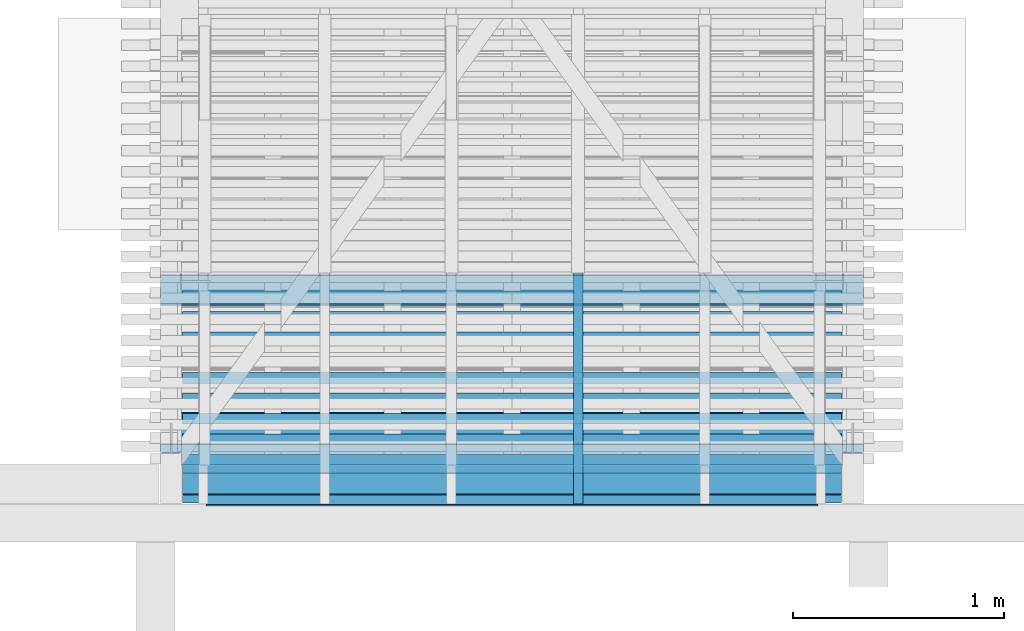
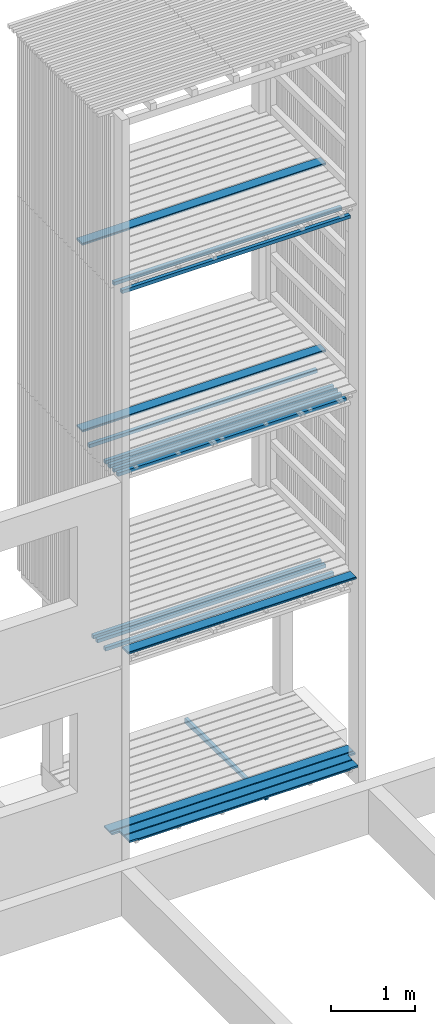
# One storey, part 67 of 182: 17 beams.
"""IFC2X3 building model written with IfcOpenShell, lengths in metres."""

import ifcopenshell
import ifcopenshell.guid

model = None  # the IFC model being written
_history = None  # IfcOwnerHistory: only IFC2X3 demands one
_inside = {}  # id of a spatial element -> (the spatial element, [elements in it])
_under = {}  # id of a project, library or spatial element -> (it, [spatial elements below it])
_declared = {}  # id of a project -> (the project, [libraries it declares])
_typed = {}  # id of a type object -> (the type object, [elements of that type])
_made_of = {}  # id of a material, layer set ... -> (it, [elements and type objects made of it])


def new_model(schema):
    """Start an empty IFC model of exactly this schema.

    Asked for "IFC4X3", IfcOpenShell would pick the latest addendum, in which some entities
    have other attributes; the version numbers below select the first issue.
    IFC2X3 requires an IfcOwnerHistory on every rooted entity: one is made here for all.
    """
    global model, _history
    if schema == "IFC4X3":
        model = ifcopenshell.file(schema_version=(4, 3, 0, 0))
    else:
        model = ifcopenshell.file(schema=schema)
    _inside.clear()
    _under.clear()
    _declared.clear()
    _typed.clear()
    _made_of.clear()
    _history = None
    if model.schema == "IFC2X3":
        org = make("IfcOrganization", Name="unknown")
        user = make(
            "IfcPersonAndOrganization",
            ThePerson=make("IfcPerson", FamilyName="unknown"),
            TheOrganization=org,
        )
        app = make(
            "IfcApplication",
            ApplicationDeveloper=org,
            Version="unknown",
            ApplicationFullName="unknown",
            ApplicationIdentifier="unknown",
        )
        _history = make(
            "IfcOwnerHistory",
            OwningUser=user,
            OwningApplication=app,
            ChangeAction="ADDED",
            CreationDate=0,
        )
    return model


def make(cls, **values):
    """One entity of the class cls with the attributes given. An attribute that is None is left unset."""
    return model.create_entity(
        cls, **{name: value for name, value in values.items() if value is not None}
    )


def rooted(cls, **values):
    """An entity with a GlobalId (a new one), such as an element, a storey or a relation."""
    return make(cls, GlobalId=ifcopenshell.guid.new(), OwnerHistory=_history, **values)


def si_unit(unit_type, name, prefix=None):
    """IfcSIUnit, for example si_unit("LENGTHUNIT", "METRE", prefix="MILLI")."""
    return make("IfcSIUnit", UnitType=unit_type, Prefix=prefix, Name=name)


def assignment(units):
    """IfcUnitAssignment: the units of a project."""
    return None if units is None else make("IfcUnitAssignment", Units=units)


def point(xyz):
    """IfcCartesianPoint."""
    return None if xyz is None else make("IfcCartesianPoint", Coordinates=xyz)


def direction(xyz):
    """IfcDirection."""
    return None if xyz is None else make("IfcDirection", DirectionRatios=xyz)


def frame(location, z_axis=None, x_axis=None):
    """IfcAxis2Placement3D, a coordinate frame: its origin and axes. An axis left out is left unset."""
    return make(
        "IfcAxis2Placement3D",
        Location=point(location),
        Axis=direction(z_axis),
        RefDirection=direction(x_axis),
    )


def origin():
    """The frame at (0, 0, 0) with its axes left unset."""
    return frame((0.0, 0.0, 0.0))


def place(relative_to, where):
    """IfcLocalPlacement: puts the frame where relative to a parent placement (None: the world)."""
    return make(
        "IfcLocalPlacement", PlacementRelTo=relative_to, RelativePlacement=where
    )


def context(
    kind, dimensions, precision=None, world=None, true_north=None, identifier=None
):
    """IfcGeometricRepresentationContext, for example the 3D "Model" context."""
    return make(
        "IfcGeometricRepresentationContext",
        ContextIdentifier=identifier,
        ContextType=kind,
        CoordinateSpaceDimension=dimensions,
        Precision=precision,
        WorldCoordinateSystem=world,
        TrueNorth=true_north,
    )


def project(units=None, contexts=None):
    """IfcProject with its units and contexts."""
    return rooted(
        "IfcProject",
        Name="project",
        RepresentationContexts=contexts,
        UnitsInContext=assignment(units),
    )


def spatial(cls, under=None, at=None, **own):
    """A site, building, storey or space (cls), placed at a placement, below another one or the project."""
    s = rooted(cls, ObjectPlacement=at, **own)
    if under is not None:
        _under.setdefault(under.id(), (under, []))[1].append(s)
    return s


def faces_of(points, faces, orient=None, outer=None):
    """IfcFace entities. A face is a list of loops; a loop is a list of indices into points, from 0.

    orient and outer hold one flag for each loop. By default every Orientation is true, the
    first loop of a face is its IfcFaceOuterBound and the others are IfcFaceBound.
    """
    made = []
    for i, loops in enumerate(faces):
        bounds = []
        for j, loop in enumerate(loops):
            is_outer = j == 0 if outer is None else outer[i][j]
            bounds.append(
                make(
                    "IfcFaceOuterBound" if is_outer else "IfcFaceBound",
                    Bound=make("IfcPolyLoop", Polygon=[points[k] for k in loop]),
                    Orientation=True if orient is None else orient[i][j],
                )
            )
        made.append(make("IfcFace", Bounds=bounds))
    return made


def faceted_brep(points, faces, orient=None, outer=None, voids=None):
    """IfcFacetedBrep: a solid bounded by flat faces; with voids (closed shells), ...WithVoids."""
    shared = [point(p) for p in points]
    hull = make("IfcClosedShell", CfsFaces=faces_of(shared, faces, orient, outer))
    if voids is None:
        return make("IfcFacetedBrep", Outer=hull)
    return make(
        "IfcFacetedBrepWithVoids",
        Outer=hull,
        Voids=[
            make(cls, CfsFaces=faces_of(shared, fs, o, b)) for cls, fs, o, b in voids
        ],
    )


def shape(context_of_items, identifier, shape_type, items):
    """IfcShapeRepresentation: the items that make up one representation, for example the "Body"."""
    return make(
        "IfcShapeRepresentation",
        ContextOfItems=context_of_items,
        RepresentationIdentifier=identifier,
        RepresentationType=shape_type,
        Items=items,
    )


def made_of(thing, what):
    """Note that an element or type object is made of a material, layer set ...; save() writes the relation."""
    if what is not None:
        _made_of.setdefault(what.id(), (what, []))[1].append(thing)
    return thing


def element(
    cls,
    number,
    at=None,
    inside=None,
    cuts=None,
    type_object=None,
    material=None,
    context=None,
    identifier="Body",
    shape_type=None,
    held_by="IfcProductDefinitionShape",
    body=None,
    shapes=None,
    **own,
):
    """One element of the class cls, such as IfcWall. Its Tag is "e" and its number.

    at: its placement. inside: the storey or other place that contains it. cuts: it is an
    opening in that element (IfcRelVoidsElement). A single representation is given by context,
    identifier, shape_type and body (its items); several are given by shapes. held_by: the class
    of the entity that holds the representations. save() writes the other relations.
    """
    e = rooted(cls, Tag="e%d" % number, ObjectPlacement=at, **own)
    if body is not None:
        shapes = [shape(context, identifier, shape_type, body)]
    if shapes is not None:
        e.Representation = make(held_by, Representations=shapes)
    if inside is not None:
        _inside.setdefault(inside.id(), (inside, []))[1].append(e)
    if cuts is not None:
        rooted(
            "IfcRelVoidsElement", RelatingBuildingElement=cuts, RelatedOpeningElement=e
        )
    if type_object is not None:
        _typed.setdefault(type_object.id(), (type_object, []))[1].append(e)
    return made_of(e, material)


def aggregate(whole, parts):
    """IfcRelAggregates: a whole, such as a stair, and the parts it consists of."""
    return rooted("IfcRelAggregates", RelatingObject=whole, RelatedObjects=parts)


def save(model, path):
    """Write the relations noted so far, then the file.

    IfcRelAggregates (storeys below a building ...), IfcRelContainedInSpatialStructure (elements
    in a storey), IfcRelDefinesByType, IfcRelAssociatesMaterial and IfcRelDeclares: one each for
    every whole, place, type object, material and project.
    """
    for whole, parts in _under.values():
        aggregate(whole, parts)
    for where, things in _inside.values():
        rooted(
            "IfcRelContainedInSpatialStructure",
            RelatedElements=things,
            RelatingStructure=where,
        )
    for kind, things in _typed.values():
        rooted("IfcRelDefinesByType", RelatedObjects=things, RelatingType=kind)
    for what, things in _made_of.values():
        rooted("IfcRelAssociatesMaterial", RelatedObjects=things, RelatingMaterial=what)
    for by, libraries in _declared.values():
        rooted("IfcRelDeclares", RelatingContext=by, RelatedDefinitions=libraries)
    model.write(path)


model = new_model("IFC2X3")

# Units and contexts
model_context = context("Model", 3, precision=1e-06, world=origin())
ifc_project = project(units=[si_unit("LENGTHUNIT", "METRE"), si_unit("PLANEANGLEUNIT", "RADIAN")], contexts=[model_context])

# Site, building, storey
site = spatial("IfcSite", under=ifc_project, CompositionType="ELEMENT")
building = spatial("IfcBuilding", under=site, CompositionType="ELEMENT")
storey = spatial("IfcBuildingStorey", under=building, Name="vs", CompositionType="ELEMENT", Elevation=-0.85)

# Beams
placement = place(None, origin())
beam_1_placement = place(placement, frame((25.022999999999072, 10.470077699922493, -0.015599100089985), z_axis=(0.0, 0.0, 1.0), x_axis=(0.0, 1.0, 0.0)))
element("IfcBeam", 1, at=beam_1_placement, inside=storey, Name="Calage", context=model_context, shape_type="Brep", body=[
    faceted_brep([(0.0, 0.02249999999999, 0.002600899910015), (1.91000000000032, 0.02249999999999, -0.035599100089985), (1.91000000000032, -0.022499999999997, -0.035599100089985), (0.0, -0.022499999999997, 0.002600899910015), (0.0, -0.022499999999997, 0.035599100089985), (0.0, 0.02249999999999, 0.035599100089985), (0.0, 0.02249999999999, 0.002600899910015), (0.0, -0.022499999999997, 0.002600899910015), (0.0, 0.02249999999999, 0.035599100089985), (0.0, -0.022499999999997, 0.035599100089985), (1.91000000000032, -0.022499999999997, 0.035599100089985), (1.91000000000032, 0.02249999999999, 0.035599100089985), (0.0, 0.02249999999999, 0.002600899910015), (0.0, 0.02249999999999, 0.035599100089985), (1.91000000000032, 0.02249999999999, 0.035599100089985), (1.91000000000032, 0.02249999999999, -0.035599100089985), (1.91000000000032, 0.02249999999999, -0.035599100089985), (1.91000000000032, 0.02249999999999, 0.035599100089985), (1.91000000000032, -0.022499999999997, 0.035599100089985), (1.91000000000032, -0.022499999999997, -0.035599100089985), (1.91000000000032, -0.022499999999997, -0.035599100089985), (1.91000000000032, -0.022499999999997, 0.035599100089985), (0.0, -0.022499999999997, 0.035599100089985), (0.0, -0.022499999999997, 0.002600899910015)], [[[0, 1, 2, 3]], [[4, 5, 6, 7]], [[8, 9, 10, 11]], [[12, 13, 14, 15]], [[16, 17, 18, 19]], [[20, 21, 22, 23]]]),
])
beam_2_placement = place(placement, frame((26.269999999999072, 10.776952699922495, 5.167999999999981), z_axis=(0.0, 0.0, 1.0), x_axis=(-1.0, 0.0, 0.0)))
element("IfcBeam", 2, at=beam_2_placement, inside=storey, Name="Bardage", context=model_context, shape_type="Brep", body=[
    faceted_brep([(3.120000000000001, 0.025000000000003, -0.025), (3.120000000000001, -0.024999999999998, -0.025), (-3e-15, -0.024999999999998, -0.025), (-3e-15, 0.025000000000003, -0.025), (-3e-15, -0.024999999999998, -0.025), (3.120000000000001, -0.024999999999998, -0.025), (3.120000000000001, -0.024999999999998, 0.025000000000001), (-3e-15, -0.024999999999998, 0.025000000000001), (3.120000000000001, -0.024999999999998, -0.025), (3.120000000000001, 0.025000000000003, -0.025), (3.120000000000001, 0.025000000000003, 0.025000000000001), (3.120000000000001, -0.024999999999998, 0.025000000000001), (3.120000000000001, 0.025000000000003, 0.025000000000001), (3.120000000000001, 0.025000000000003, -0.025), (-3e-15, 0.025000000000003, -0.025), (-3e-15, 0.025000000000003, 0.025000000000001), (-3e-15, -0.024999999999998, 0.025000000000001), (3.120000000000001, -0.024999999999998, 0.025000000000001), (3.120000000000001, 0.025000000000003, 0.025000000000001), (-3e-15, 0.025000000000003, 0.025000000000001), (-3e-15, -0.024999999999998, -0.025), (-3e-15, -0.024999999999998, 0.025000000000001), (-3e-15, 0.025000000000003, 0.025000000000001), (-3e-15, 0.025000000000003, -0.025)], [[[0, 1, 2, 3]], [[4, 5, 6, 7]], [[8, 9, 10, 11]], [[12, 13, 14, 15]], [[16, 17, 18, 19]], [[20, 21, 22, 23]]]),
])
beam_3_placement = place(placement, frame((26.269999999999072, 11.067577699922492, 2.467999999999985), z_axis=(0.0, 0.0, 1.0), x_axis=(-1.0, -1e-15, 0.0)))
element("IfcBeam", 3, at=beam_3_placement, inside=storey, Name="Bardage", context=model_context, shape_type="Brep", body=[
    faceted_brep([(3.120000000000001, 0.025000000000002, -0.025), (3.120000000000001, -0.025000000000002, -0.025), (-3e-15, -0.024999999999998, -0.025), (-3e-15, 0.025000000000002, -0.025), (-3e-15, -0.024999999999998, -0.025), (3.120000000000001, -0.025000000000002, -0.025), (3.120000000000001, -0.025000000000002, 0.025), (-3e-15, -0.024999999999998, 0.025), (3.120000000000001, -0.025000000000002, -0.025), (3.120000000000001, 0.025000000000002, -0.025), (3.120000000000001, 0.025000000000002, 0.025), (3.120000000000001, -0.025000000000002, 0.025), (3.120000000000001, 0.025000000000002, 0.025), (3.120000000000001, 0.025000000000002, -0.025), (-3e-15, 0.025000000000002, -0.025), (-3e-15, 0.025000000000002, 0.025), (-3e-15, -0.024999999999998, 0.025), (3.120000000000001, -0.025000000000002, 0.025), (3.120000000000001, 0.025000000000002, 0.025), (-3e-15, 0.025000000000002, 0.025), (-3e-15, -0.024999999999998, -0.025), (-3e-15, -0.024999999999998, 0.025), (-3e-15, 0.025000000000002, 0.025), (-3e-15, 0.025000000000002, -0.025)], [[[0, 1, 2, 3]], [[4, 5, 6, 7]], [[8, 9, 10, 11]], [[12, 13, 14, 15]], [[16, 17, 18, 19]], [[20, 21, 22, 23]]]),
])
beam_4_placement = place(placement, frame((26.269999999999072, 11.455077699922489, 5.167999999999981), z_axis=(0.0, 0.0, 1.0), x_axis=(-1.0, -1e-15, 0.0)))
element("IfcBeam", 4, at=beam_4_placement, inside=storey, Name="Bardage", context=model_context, shape_type="Brep", body=[
    faceted_brep([(3.120000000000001, 0.025000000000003, -0.025), (3.120000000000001, -0.025000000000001, -0.025), (-3e-15, -0.024999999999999, -0.025), (-3e-15, 0.025000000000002, -0.025), (-3e-15, -0.024999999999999, -0.025), (3.120000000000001, -0.025000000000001, -0.025), (3.120000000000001, -0.025000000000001, 0.025000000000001), (-3e-15, -0.024999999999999, 0.025000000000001), (3.120000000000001, -0.025000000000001, -0.025), (3.120000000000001, 0.025000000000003, -0.025), (3.120000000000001, 0.025000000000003, 0.025000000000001), (3.120000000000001, -0.025000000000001, 0.025000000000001), (3.120000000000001, 0.025000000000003, 0.025000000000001), (3.120000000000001, 0.025000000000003, -0.025), (-3e-15, 0.025000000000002, -0.025), (-3e-15, 0.025000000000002, 0.025000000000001), (-3e-15, -0.024999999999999, 0.025000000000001), (3.120000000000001, -0.025000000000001, 0.025000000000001), (3.120000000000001, 0.025000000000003, 0.025000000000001), (-3e-15, 0.025000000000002, 0.025000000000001), (-3e-15, -0.024999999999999, -0.025), (-3e-15, -0.024999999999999, 0.025000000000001), (-3e-15, 0.025000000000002, 0.025000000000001), (-3e-15, 0.025000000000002, -0.025)], [[[0, 1, 2, 3]], [[4, 5, 6, 7]], [[8, 9, 10, 11]], [[12, 13, 14, 15]], [[16, 17, 18, 19]], [[20, 21, 22, 23]]]),
])
beam_5_placement = place(placement, frame((26.374999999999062, 10.834577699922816, 0.033500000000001), z_axis=(0.0, 0.0, 1.0), x_axis=(-1.0, 0.0, 0.0)))
element("IfcBeam", 5, at=beam_5_placement, inside=storey, Name="Caillebotis", context=model_context, shape_type="Brep", body=[
    faceted_brep([(3.329999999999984, -0.067500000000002, 0.0135), (3.329999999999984, -0.072499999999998, 0.008500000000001), (3.329999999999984, -0.072499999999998, -0.013500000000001), (3.329999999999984, 0.072499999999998, -0.013500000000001), (3.329999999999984, 0.072499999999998, 0.0085), (3.329999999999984, 0.067499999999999, 0.0135), (0.0, 0.067499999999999, 0.0135), (0.0, 0.072499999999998, 0.0085), (0.0, 0.072499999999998, -0.013500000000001), (0.0, -0.072500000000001, -0.013500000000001), (0.0, -0.072500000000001, 0.008500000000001), (0.0, -0.067500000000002, 0.0135), (3.329999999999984, -0.072499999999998, -0.013500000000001), (3.329999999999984, -0.072499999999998, 0.008500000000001), (0.0, -0.072500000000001, 0.008500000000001), (0.0, -0.072500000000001, -0.013500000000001), (3.329999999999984, 0.072499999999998, -0.013500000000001), (3.329999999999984, -0.072499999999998, -0.013500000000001), (0.0, -0.072500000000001, -0.013500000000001), (0.0, 0.072499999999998, -0.013500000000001), (3.329999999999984, 0.072499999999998, 0.0085), (3.329999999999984, 0.072499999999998, -0.013500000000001), (0.0, 0.072499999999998, -0.013500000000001), (0.0, 0.072499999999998, 0.0085), (3.329999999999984, 0.067499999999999, 0.0135), (3.329999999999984, 0.072499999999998, 0.0085), (0.0, 0.072499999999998, 0.0085), (0.0, 0.067499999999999, 0.0135), (3.329999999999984, -0.067500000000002, 0.0135), (3.329999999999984, 0.067499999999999, 0.0135), (0.0, 0.067499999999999, 0.0135), (0.0, -0.067500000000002, 0.0135), (0.0, -0.072500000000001, 0.008500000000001), (3.329999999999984, -0.072499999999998, 0.008500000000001), (3.329999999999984, -0.067500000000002, 0.0135), (0.0, -0.067500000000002, 0.0135)], [[[0, 1, 2, 3, 4, 5]], [[6, 7, 8, 9, 10, 11]], [[12, 13, 14, 15]], [[16, 17, 18, 19]], [[20, 21, 22, 23]], [[24, 25, 26, 27]], [[28, 29, 30, 31]], [[32, 33, 34, 35]]]),
])
beam_6_placement = place(placement, frame((26.269999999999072, 10.873827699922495, 7.867999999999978), z_axis=(0.0, 0.0, 1.0), x_axis=(-1.0, 0.0, 0.0)))
element("IfcBeam", 6, at=beam_6_placement, inside=storey, Name="Bardage", context=model_context, shape_type="Brep", body=[
    faceted_brep([(3.120000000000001, 0.025000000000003, -0.025000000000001), (3.120000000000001, -0.024999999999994, -0.025000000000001), (-3e-15, -0.024999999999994, -0.025000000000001), (-3e-15, 0.025000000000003, -0.025000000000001), (-3e-15, -0.024999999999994, -0.025000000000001), (3.120000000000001, -0.024999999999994, -0.025000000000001), (3.120000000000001, -0.024999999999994, 0.024999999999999), (-3e-15, -0.024999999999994, 0.024999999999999), (3.120000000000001, -0.024999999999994, -0.025000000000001), (3.120000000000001, 0.025000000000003, -0.025000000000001), (3.120000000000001, 0.025000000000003, 0.024999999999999), (3.120000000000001, -0.024999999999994, 0.024999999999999), (3.120000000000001, 0.025000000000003, 0.024999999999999), (3.120000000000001, 0.025000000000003, -0.025000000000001), (-3e-15, 0.025000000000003, -0.025000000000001), (-3e-15, 0.025000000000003, 0.024999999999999), (-3e-15, -0.024999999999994, 0.024999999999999), (3.120000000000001, -0.024999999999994, 0.024999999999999), (3.120000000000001, 0.025000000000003, 0.024999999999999), (-3e-15, 0.025000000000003, 0.024999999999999), (-3e-15, -0.024999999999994, -0.025000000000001), (-3e-15, -0.024999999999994, 0.024999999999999), (-3e-15, 0.025000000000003, 0.024999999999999), (-3e-15, 0.025000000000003, -0.025000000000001)], [[[0, 1, 2, 3]], [[4, 5, 6, 7]], [[8, 9, 10, 11]], [[12, 13, 14, 15]], [[16, 17, 18, 19]], [[20, 21, 22, 23]]]),
])
beam_7_placement = place(placement, frame((26.374999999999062, 10.684577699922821, 0.033500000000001), z_axis=(0.0, 0.0, 1.0), x_axis=(-1.0, 0.0, 0.0)))
element("IfcBeam", 7, at=beam_7_placement, inside=storey, Name="Caillebotis", context=model_context, shape_type="Brep", body=[
    faceted_brep([(0.0, -0.072499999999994, -0.0135), (0.0, -0.072499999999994, 0.008500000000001), (0.0, -0.067499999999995, 0.0135), (0.0, -0.030499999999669, 0.0135), (0.0, -0.030499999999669, -0.0135), (3.329999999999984, -0.067499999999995, 0.0135), (3.329999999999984, -0.030499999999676, 0.0135), (3.224999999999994, -0.030499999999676, 0.0135), (3.224999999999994, 0.067500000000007, 0.0135), (0.104999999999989, 0.067500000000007, 0.0135), (0.104999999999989, -0.030499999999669, 0.0135), (0.0, -0.030499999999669, 0.0135), (0.0, -0.067499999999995, 0.0135), (0.104999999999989, -0.030499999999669, 0.0135), (0.104999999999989, 0.067500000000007, 0.0135), (0.104999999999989, 0.072500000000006, 0.0085), (0.104999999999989, 0.072500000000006, -0.0135), (0.104999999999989, -0.030499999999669, -0.0135), (0.104999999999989, 0.072500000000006, 0.0085), (0.104999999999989, 0.067500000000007, 0.0135), (3.224999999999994, 0.067500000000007, 0.0135), (3.224999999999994, 0.072500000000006, 0.0085), (0.104999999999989, 0.072500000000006, -0.0135), (0.104999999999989, 0.072500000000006, 0.0085), (3.224999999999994, 0.072500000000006, 0.0085), (3.224999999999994, 0.072500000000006, -0.013500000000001), (3.224999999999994, 0.072500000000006, -0.013500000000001), (3.224999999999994, 0.072500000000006, 0.0085), (3.224999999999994, 0.067500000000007, 0.0135), (3.224999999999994, -0.030499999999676, 0.0135), (3.224999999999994, -0.030499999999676, -0.013500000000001), (3.224999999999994, -0.030499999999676, -0.013500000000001), (3.224999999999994, -0.030499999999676, 0.0135), (3.329999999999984, -0.030499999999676, 0.0135), (3.329999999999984, -0.030499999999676, -0.013500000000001), (3.329999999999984, -0.072499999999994, 0.008500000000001), (3.329999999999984, -0.072499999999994, -0.013500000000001), (3.329999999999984, -0.030499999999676, -0.013500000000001), (3.329999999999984, -0.030499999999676, 0.0135), (3.329999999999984, -0.067499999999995, 0.0135), (3.329999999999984, -0.072499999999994, 0.008500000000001), (3.329999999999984, -0.067499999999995, 0.0135), (0.0, -0.067499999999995, 0.0135), (0.0, -0.072499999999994, 0.008500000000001), (3.329999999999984, -0.072499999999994, -0.013500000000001), (3.329999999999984, -0.072499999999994, 0.008500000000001), (0.0, -0.072499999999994, 0.008500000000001), (0.0, -0.072499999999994, -0.0135), (0.104999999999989, -0.030499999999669, -0.0135), (0.104999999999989, 0.072500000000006, -0.0135), (3.224999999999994, 0.072500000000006, -0.013500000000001), (3.224999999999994, -0.030499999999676, -0.013500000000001), (3.329999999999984, -0.030499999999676, -0.013500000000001), (3.329999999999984, -0.072499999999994, -0.013500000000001), (0.0, -0.072499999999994, -0.0135), (0.0, -0.030499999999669, -0.0135), (0.0, -0.030499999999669, 0.0135), (0.104999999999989, -0.030499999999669, 0.0135), (0.104999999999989, -0.030499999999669, -0.0135), (0.0, -0.030499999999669, -0.0135)], [[[0, 1, 2, 3, 4]], [[5, 6, 7, 8, 9, 10, 11, 12]], [[13, 14, 15, 16, 17]], [[18, 19, 20, 21]], [[22, 23, 24, 25]], [[26, 27, 28, 29, 30]], [[31, 32, 33, 34]], [[35, 36, 37, 38, 39]], [[40, 41, 42, 43]], [[44, 45, 46, 47]], [[48, 49, 50, 51, 52, 53, 54, 55]], [[56, 57, 58, 59]]]),
])
beam_8_placement = place(placement, frame((26.269999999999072, 10.970702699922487, 5.167999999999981), z_axis=(0.0, 0.0, 1.0), x_axis=(-1.0, 0.0, 0.0)))
element("IfcBeam", 8, at=beam_8_placement, inside=storey, Name="Bardage", context=model_context, shape_type="Brep", body=[
    faceted_brep([(3.120000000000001, 0.024999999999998, -0.025), (3.120000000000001, -0.025000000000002, -0.025), (-3e-15, -0.025000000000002, -0.025), (-3e-15, 0.024999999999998, -0.025), (-3e-15, -0.025000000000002, -0.025), (3.120000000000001, -0.025000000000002, -0.025), (3.120000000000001, -0.025000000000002, 0.025000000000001), (-3e-15, -0.025000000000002, 0.025000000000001), (3.120000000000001, -0.025000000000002, -0.025), (3.120000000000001, 0.024999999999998, -0.025), (3.120000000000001, 0.024999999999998, 0.025000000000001), (3.120000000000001, -0.025000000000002, 0.025000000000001), (3.120000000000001, 0.024999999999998, 0.025000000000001), (3.120000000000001, 0.024999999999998, -0.025), (-3e-15, 0.024999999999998, -0.025), (-3e-15, 0.024999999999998, 0.025000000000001), (-3e-15, -0.025000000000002, 0.025000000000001), (3.120000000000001, -0.025000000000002, 0.025000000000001), (3.120000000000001, 0.024999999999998, 0.025000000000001), (-3e-15, 0.024999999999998, 0.025000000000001), (-3e-15, -0.025000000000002, -0.025), (-3e-15, -0.025000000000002, 0.025000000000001), (-3e-15, 0.024999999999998, 0.025000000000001), (-3e-15, 0.024999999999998, -0.025)], [[[0, 1, 2, 3]], [[4, 5, 6, 7]], [[8, 9, 10, 11]], [[12, 13, 14, 15]], [[16, 17, 18, 19]], [[20, 21, 22, 23]]]),
])
beam_9_placement = place(placement, frame((26.374999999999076, 11.484577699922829, 8.13349999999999), z_axis=(0.0, 0.0, 1.0), x_axis=(-1.0, -8e-15, 0.0)))
element("IfcBeam", 9, at=beam_9_placement, inside=storey, Name="Caillebotis", context=model_context, shape_type="Brep", body=[
    faceted_brep([(3.329999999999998, -0.072500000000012, -0.013500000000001), (3.329999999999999, 0.072499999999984, -0.013500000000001), (3.329999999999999, 0.072499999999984, 0.008499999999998), (3.329999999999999, 0.067499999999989, 0.013499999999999), (3.329999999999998, -0.067500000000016, 0.013499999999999), (3.329999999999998, -0.072500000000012, 0.0085), (-1e-15, -0.072499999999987, 0.0085), (-1e-15, -0.067499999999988, 0.013499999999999), (1e-15, 0.067500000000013, 0.013499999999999), (1e-15, 0.072500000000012, 0.008499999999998), (1e-15, 0.072500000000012, -0.013500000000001), (-1e-15, -0.072499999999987, -0.013500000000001), (3.329999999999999, 0.072499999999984, 0.008499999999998), (3.329999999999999, 0.072499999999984, -0.013500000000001), (1e-15, 0.072500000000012, -0.013500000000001), (1e-15, 0.072500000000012, 0.008499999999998), (3.329999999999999, 0.067499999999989, 0.013499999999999), (3.329999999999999, 0.072499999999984, 0.008499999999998), (1e-15, 0.072500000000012, 0.008499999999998), (1e-15, 0.067500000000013, 0.013499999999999), (3.329999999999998, -0.067500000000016, 0.013499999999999), (3.329999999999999, 0.067499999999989, 0.013499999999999), (1e-15, 0.067500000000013, 0.013499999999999), (-1e-15, -0.067499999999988, 0.013499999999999), (3.329999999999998, -0.072500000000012, 0.0085), (3.329999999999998, -0.067500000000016, 0.013499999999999), (-1e-15, -0.067499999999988, 0.013499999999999), (-1e-15, -0.072499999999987, 0.0085), (3.329999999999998, -0.072500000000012, -0.013500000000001), (3.329999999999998, -0.072500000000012, 0.0085), (-1e-15, -0.072499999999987, 0.0085), (-1e-15, -0.072499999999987, -0.013500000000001), (1e-15, 0.072500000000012, -0.013500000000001), (3.329999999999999, 0.072499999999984, -0.013500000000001), (3.329999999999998, -0.072500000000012, -0.013500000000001), (-1e-15, -0.072499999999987, -0.013500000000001)], [[[0, 1, 2, 3, 4, 5]], [[6, 7, 8, 9, 10, 11]], [[12, 13, 14, 15]], [[16, 17, 18, 19]], [[20, 21, 22, 23]], [[24, 25, 26, 27]], [[28, 29, 30, 31]], [[32, 33, 34, 35]]]),
])
beam_10_placement = place(placement, frame((26.269999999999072, 10.873827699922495, 5.167999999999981), z_axis=(0.0, 0.0, 1.0), x_axis=(-1.0, 0.0, 0.0)))
element("IfcBeam", 10, at=beam_10_placement, inside=storey, Name="Bardage", context=model_context, shape_type="Brep", body=[
    faceted_brep([(3.120000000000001, 0.025000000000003, -0.025), (3.120000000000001, -0.024999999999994, -0.025), (-3e-15, -0.024999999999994, -0.025), (-3e-15, 0.025000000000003, -0.025), (-3e-15, -0.024999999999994, -0.025), (3.120000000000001, -0.024999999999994, -0.025), (3.120000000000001, -0.024999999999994, 0.025000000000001), (-3e-15, -0.024999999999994, 0.025000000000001), (3.120000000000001, -0.024999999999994, -0.025), (3.120000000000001, 0.025000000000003, -0.025), (3.120000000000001, 0.025000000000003, 0.025000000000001), (3.120000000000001, -0.024999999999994, 0.025000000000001), (3.120000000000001, 0.025000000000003, 0.025000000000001), (3.120000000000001, 0.025000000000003, -0.025), (-3e-15, 0.025000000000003, -0.025), (-3e-15, 0.025000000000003, 0.025000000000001), (-3e-15, -0.024999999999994, 0.025000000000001), (3.120000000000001, -0.024999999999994, 0.025000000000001), (3.120000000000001, 0.025000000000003, 0.025000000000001), (-3e-15, 0.025000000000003, 0.025000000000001), (-3e-15, -0.024999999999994, -0.025), (-3e-15, -0.024999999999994, 0.025000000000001), (-3e-15, 0.025000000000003, 0.025000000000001), (-3e-15, 0.025000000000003, -0.025)], [[[0, 1, 2, 3]], [[4, 5, 6, 7]], [[8, 9, 10, 11]], [[12, 13, 14, 15]], [[16, 17, 18, 19]], [[20, 21, 22, 23]]]),
])
beam_11_placement = place(placement, frame((26.374999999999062, 11.484577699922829, 5.433499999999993), z_axis=(0.0, 0.0, 1.0), x_axis=(-1.0, -8e-15, 0.0)))
element("IfcBeam", 11, at=beam_11_placement, inside=storey, Name="Caillebotis", context=model_context, shape_type="Brep", body=[
    faceted_brep([(3.329999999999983, -0.072500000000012, -0.0135), (3.329999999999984, 0.072499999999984, -0.0135), (3.329999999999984, 0.072499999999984, 0.0085), (3.329999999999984, 0.067499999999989, 0.0135), (3.329999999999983, -0.067500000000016, 0.0135), (3.329999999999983, -0.072500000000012, 0.008500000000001), (-1.5e-14, -0.072499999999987, 0.008500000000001), (-1.5e-14, -0.067499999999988, 0.0135), (-1.4e-14, 0.067500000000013, 0.0135), (-1.4e-14, 0.072500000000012, 0.0085), (-1.4e-14, 0.072500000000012, -0.0135), (-1.5e-14, -0.072499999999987, -0.0135), (3.329999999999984, 0.072499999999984, 0.0085), (3.329999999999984, 0.072499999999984, -0.0135), (-1.4e-14, 0.072500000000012, -0.0135), (-1.4e-14, 0.072500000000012, 0.0085), (3.329999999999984, 0.067499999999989, 0.0135), (3.329999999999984, 0.072499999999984, 0.0085), (-1.4e-14, 0.072500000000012, 0.0085), (-1.4e-14, 0.067500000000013, 0.0135), (3.329999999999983, -0.067500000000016, 0.0135), (3.329999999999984, 0.067499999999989, 0.0135), (-1.4e-14, 0.067500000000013, 0.0135), (-1.5e-14, -0.067499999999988, 0.0135), (3.329999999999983, -0.072500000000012, 0.008500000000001), (3.329999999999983, -0.067500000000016, 0.0135), (-1.5e-14, -0.067499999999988, 0.0135), (-1.5e-14, -0.072499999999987, 0.008500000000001), (3.329999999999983, -0.072500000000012, -0.0135), (3.329999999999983, -0.072500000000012, 0.008500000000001), (-1.5e-14, -0.072499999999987, 0.008500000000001), (-1.5e-14, -0.072499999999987, -0.0135), (-1.4e-14, 0.072500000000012, -0.0135), (3.329999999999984, 0.072499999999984, -0.0135), (3.329999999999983, -0.072500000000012, -0.0135), (-1.5e-14, -0.072499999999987, -0.0135)], [[[0, 1, 2, 3, 4, 5]], [[6, 7, 8, 9, 10, 11]], [[12, 13, 14, 15]], [[16, 17, 18, 19]], [[20, 21, 22, 23]], [[24, 25, 26, 27]], [[28, 29, 30, 31]], [[32, 33, 34, 35]]]),
])
beam_12_placement = place(placement, frame((26.269999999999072, 11.358202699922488, 2.467999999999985), z_axis=(0.0, 0.0, 1.0), x_axis=(-1.0, -1e-15, 0.0)))
element("IfcBeam", 12, at=beam_12_placement, inside=storey, Name="Bardage", context=model_context, shape_type="Brep", body=[
    faceted_brep([(3.120000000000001, 0.024999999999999, -0.025), (3.120000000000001, -0.025000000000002, -0.025), (-3e-15, -0.025000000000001, -0.025), (-3e-15, 0.025000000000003, -0.025), (-3e-15, -0.025000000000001, -0.025), (3.120000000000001, -0.025000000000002, -0.025), (3.120000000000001, -0.025000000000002, 0.025), (-3e-15, -0.025000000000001, 0.025), (3.120000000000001, -0.025000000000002, -0.025), (3.120000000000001, 0.024999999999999, -0.025), (3.120000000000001, 0.024999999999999, 0.025), (3.120000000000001, -0.025000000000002, 0.025), (3.120000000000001, 0.024999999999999, 0.025), (3.120000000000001, 0.024999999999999, -0.025), (-3e-15, 0.025000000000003, -0.025), (-3e-15, 0.025000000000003, 0.025), (-3e-15, -0.025000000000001, 0.025), (3.120000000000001, -0.025000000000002, 0.025), (3.120000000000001, 0.024999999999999, 0.025), (-3e-15, 0.025000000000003, 0.025), (-3e-15, -0.025000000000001, -0.025), (-3e-15, -0.025000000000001, 0.025), (-3e-15, 0.025000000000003, 0.025), (-3e-15, 0.025000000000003, -0.025)], [[[0, 1, 2, 3]], [[4, 5, 6, 7]], [[8, 9, 10, 11]], [[12, 13, 14, 15]], [[16, 17, 18, 19]], [[20, 21, 22, 23]]]),
])
beam_13_placement = place(placement, frame((26.269999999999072, 11.261327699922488, 2.467999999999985), z_axis=(0.0, 0.0, 1.0), x_axis=(-1.0, 0.0, 0.0)))
element("IfcBeam", 13, at=beam_13_placement, inside=storey, Name="Bardage", context=model_context, shape_type="Brep", body=[
    faceted_brep([(3.120000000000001, 0.024999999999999, -0.025), (3.120000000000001, -0.024999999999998, -0.025), (-3e-15, -0.025000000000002, -0.025), (-3e-15, 0.024999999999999, -0.025), (-3e-15, -0.025000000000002, -0.025), (3.120000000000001, -0.024999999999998, -0.025), (3.120000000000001, -0.024999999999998, 0.025), (-3e-15, -0.025000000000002, 0.025), (3.120000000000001, -0.024999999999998, -0.025), (3.120000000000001, 0.024999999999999, -0.025), (3.120000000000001, 0.024999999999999, 0.025), (3.120000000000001, -0.024999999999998, 0.025), (3.120000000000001, 0.024999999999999, 0.025), (3.120000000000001, 0.024999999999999, -0.025), (-3e-15, 0.024999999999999, -0.025), (-3e-15, 0.024999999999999, 0.025), (-3e-15, -0.025000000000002, 0.025), (3.120000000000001, -0.024999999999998, 0.025), (3.120000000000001, 0.024999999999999, 0.025), (-3e-15, 0.024999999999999, 0.025), (-3e-15, -0.025000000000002, -0.025), (-3e-15, -0.025000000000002, 0.025), (-3e-15, 0.024999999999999, 0.025), (-3e-15, 0.024999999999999, -0.025)], [[[0, 1, 2, 3]], [[4, 5, 6, 7]], [[8, 9, 10, 11]], [[12, 13, 14, 15]], [[16, 17, 18, 19]], [[20, 21, 22, 23]]]),
])
beam_14_placement = place(placement, frame((26.269999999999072, 10.534577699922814, 0.033500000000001), z_axis=(0.0, 0.0, 1.0), x_axis=(-1.0, 0.0, 0.0)))
element("IfcBeam", 14, at=beam_14_placement, inside=storey, Name="Caillebotis", context=model_context, shape_type="Brep", body=[
    faceted_brep([(0.109999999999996, 0.072499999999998, 0.0085), (3.010000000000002, 0.072499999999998, 0.0085), (3.010000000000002, 0.072499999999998, -0.013500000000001), (0.109999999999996, 0.072499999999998, -0.0135), (0.109999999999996, 0.067499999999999, 0.0135), (3.010000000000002, 0.067499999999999, 0.0135), (3.010000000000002, 0.072499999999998, 0.0085), (0.109999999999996, 0.072499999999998, 0.0085), (0.109999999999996, 0.05950000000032, 0.0135), (0.109999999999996, 0.067499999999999, 0.0135), (0.109999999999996, 0.072499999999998, 0.0085), (0.109999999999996, 0.072499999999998, -0.0135), (0.109999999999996, 0.05950000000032, -0.0135), (0.109999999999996, 0.05950000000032, 0.0135), (0.109999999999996, 0.05950000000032, -0.0135), (-3e-15, 0.05950000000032, -0.0135), (-3e-15, 0.05950000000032, 0.0135), (-3e-15, -0.072500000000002, 0.008500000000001), (3.120000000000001, -0.072500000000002, 0.008500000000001), (3.120000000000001, -0.067500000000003, 0.0135), (-3e-15, -0.067500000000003, 0.0135), (-3e-15, -0.072500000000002, -0.0135), (-3e-15, -0.072500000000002, 0.008500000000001), (-3e-15, -0.067500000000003, 0.0135), (-3e-15, 0.05950000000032, 0.0135), (-3e-15, 0.05950000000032, -0.0135), (3.010000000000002, 0.067499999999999, 0.0135), (0.109999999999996, 0.067499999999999, 0.0135), (0.109999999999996, 0.05950000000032, 0.0135), (-3e-15, 0.05950000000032, 0.0135), (-3e-15, -0.067500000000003, 0.0135), (3.120000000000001, -0.067500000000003, 0.0135), (3.120000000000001, 0.05950000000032, 0.0135), (3.010000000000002, 0.05950000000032, 0.0135), (3.010000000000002, 0.05950000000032, -0.013500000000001), (3.010000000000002, 0.072499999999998, -0.013500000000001), (3.010000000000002, 0.072499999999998, 0.0085), (3.010000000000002, 0.067499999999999, 0.0135), (3.010000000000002, 0.05950000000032, 0.0135), (3.010000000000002, 0.05950000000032, -0.013500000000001), (3.010000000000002, 0.05950000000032, 0.0135), (3.120000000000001, 0.05950000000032, 0.0135), (3.120000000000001, 0.05950000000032, -0.013500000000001), (-3e-15, -0.072500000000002, -0.0135), (-3e-15, 0.05950000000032, -0.0135), (0.109999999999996, 0.05950000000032, -0.0135), (0.109999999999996, 0.072499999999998, -0.0135), (3.010000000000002, 0.072499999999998, -0.013500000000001), (3.010000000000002, 0.05950000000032, -0.013500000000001), (3.120000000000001, 0.05950000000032, -0.013500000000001), (3.120000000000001, -0.072500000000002, -0.013500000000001), (-3e-15, -0.072500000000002, 0.008500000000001), (-3e-15, -0.072500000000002, -0.0135), (3.120000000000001, -0.072500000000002, -0.013500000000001), (3.120000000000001, -0.072500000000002, 0.008500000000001), (3.120000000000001, 0.05950000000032, 0.0135), (3.120000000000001, -0.067500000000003, 0.0135), (3.120000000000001, -0.072500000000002, 0.008500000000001), (3.120000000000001, -0.072500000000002, -0.013500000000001), (3.120000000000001, 0.05950000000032, -0.013500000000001)], [[[0, 1, 2, 3]], [[4, 5, 6, 7]], [[8, 9, 10, 11, 12]], [[13, 14, 15, 16]], [[17, 18, 19, 20]], [[21, 22, 23, 24, 25]], [[26, 27, 28, 29, 30, 31, 32, 33]], [[34, 35, 36, 37, 38]], [[39, 40, 41, 42]], [[43, 44, 45, 46, 47, 48, 49, 50]], [[51, 52, 53, 54]], [[55, 56, 57, 58, 59]]]),
])
beam_15_placement = place(placement, frame((26.269999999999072, 10.584577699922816, 2.733499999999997), z_axis=(0.0, 0.0, 1.0), x_axis=(-1.0, 0.0, 0.0)))
element("IfcBeam", 15, at=beam_15_placement, inside=storey, Name="Caillebotis", context=model_context, shape_type="Brep", body=[
    faceted_brep([(-3e-15, -0.072500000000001, 0.008500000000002), (-3e-15, -0.067500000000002, 0.0135), (-3e-15, 0.067499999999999, 0.0135), (-3e-15, 0.072499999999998, 0.0085), (-3e-15, 0.072499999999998, -0.0135), (-3e-15, -0.072500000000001, -0.0135), (-3e-15, 0.072499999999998, -0.0135), (-3e-15, 0.072499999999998, 0.0085), (3.120000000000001, 0.072499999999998, 0.0085), (3.120000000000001, 0.072499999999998, -0.0135), (-3e-15, -0.072500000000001, -0.0135), (-3e-15, 0.072499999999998, -0.0135), (3.120000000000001, 0.072499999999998, -0.0135), (3.120000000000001, -0.072500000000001, -0.0135), (-3e-15, -0.072500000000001, 0.008500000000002), (-3e-15, -0.072500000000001, -0.0135), (3.120000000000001, -0.072500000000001, -0.0135), (3.120000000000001, -0.072500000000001, 0.008500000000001), (-3e-15, -0.067500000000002, 0.0135), (-3e-15, -0.072500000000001, 0.008500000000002), (3.120000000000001, -0.072500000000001, 0.008500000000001), (3.120000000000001, -0.067500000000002, 0.0135), (-3e-15, 0.067499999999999, 0.0135), (-3e-15, -0.067500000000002, 0.0135), (3.120000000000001, -0.067500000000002, 0.0135), (3.120000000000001, 0.067499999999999, 0.0135), (-3e-15, 0.072499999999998, 0.0085), (-3e-15, 0.067499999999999, 0.0135), (3.120000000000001, 0.067499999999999, 0.0135), (3.120000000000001, 0.072499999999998, 0.0085), (3.120000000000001, -0.072500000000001, -0.0135), (3.120000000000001, 0.072499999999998, -0.0135), (3.120000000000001, 0.072499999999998, 0.0085), (3.120000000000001, 0.067499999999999, 0.0135), (3.120000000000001, -0.067500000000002, 0.0135), (3.120000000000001, -0.072500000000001, 0.008500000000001)], [[[0, 1, 2, 3, 4, 5]], [[6, 7, 8, 9]], [[10, 11, 12, 13]], [[14, 15, 16, 17]], [[18, 19, 20, 21]], [[22, 23, 24, 25]], [[26, 27, 28, 29]], [[30, 31, 32, 33, 34, 35]]]),
])
beam_16_placement = place(placement, frame((26.269999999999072, 10.680077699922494, 7.867999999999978), z_axis=(0.0, 0.0, 1.0), x_axis=(-1.0, 0.0, 0.0)))
element("IfcBeam", 16, at=beam_16_placement, inside=storey, Name="Bardage", context=model_context, shape_type="Brep", body=[
    faceted_brep([(3.120000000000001, -0.025000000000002, 0.024999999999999), (3.120000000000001, -0.025000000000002, -0.025000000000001), (3.120000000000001, 0.024999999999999, -0.025000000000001), (3.120000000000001, 0.024999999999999, 0.024999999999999), (-3e-15, 0.024999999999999, 0.024999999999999), (-3e-15, 0.024999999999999, -0.025000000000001), (-3e-15, -0.024999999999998, -0.025000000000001), (-3e-15, -0.024999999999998, 0.024999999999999), (3.120000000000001, -0.025000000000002, -0.025000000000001), (3.120000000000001, -0.025000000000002, 0.024999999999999), (-3e-15, -0.024999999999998, 0.024999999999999), (-3e-15, -0.024999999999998, -0.025000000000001), (3.120000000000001, 0.024999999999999, -0.025000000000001), (3.120000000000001, -0.025000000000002, -0.025000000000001), (-3e-15, -0.024999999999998, -0.025000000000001), (-3e-15, 0.024999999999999, -0.025000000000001), (3.120000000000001, 0.024999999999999, 0.024999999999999), (3.120000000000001, 0.024999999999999, -0.025000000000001), (-3e-15, 0.024999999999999, -0.025000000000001), (-3e-15, 0.024999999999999, 0.024999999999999), (3.120000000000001, -0.025000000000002, 0.024999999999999), (3.120000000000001, 0.024999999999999, 0.024999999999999), (-3e-15, 0.024999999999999, 0.024999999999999), (-3e-15, -0.024999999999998, 0.024999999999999)], [[[0, 1, 2, 3]], [[4, 5, 6, 7]], [[8, 9, 10, 11]], [[12, 13, 14, 15]], [[16, 17, 18, 19]], [[20, 21, 22, 23]]]),
])
beam_17_placement = place(placement, frame((26.269999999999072, 11.067577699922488, 5.167999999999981), z_axis=(0.0, 0.0, 1.0), x_axis=(-1.0, 0.0, 0.0)))
element("IfcBeam", 17, at=beam_17_placement, inside=storey, Name="Bardage", context=model_context, shape_type="Brep", body=[
    faceted_brep([(3.120000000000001, 0.025000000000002, -0.025), (3.120000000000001, -0.025000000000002, -0.025), (-3e-15, -0.025000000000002, -0.025), (-3e-15, 0.024999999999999, -0.025), (-3e-15, -0.025000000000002, -0.025), (3.120000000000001, -0.025000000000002, -0.025), (3.120000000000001, -0.025000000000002, 0.025000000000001), (-3e-15, -0.025000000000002, 0.025000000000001), (3.120000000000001, -0.025000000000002, -0.025), (3.120000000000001, 0.025000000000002, -0.025), (3.120000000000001, 0.025000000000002, 0.025000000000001), (3.120000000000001, -0.025000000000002, 0.025000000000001), (3.120000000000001, 0.025000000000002, 0.025000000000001), (3.120000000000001, 0.025000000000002, -0.025), (-3e-15, 0.024999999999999, -0.025), (-3e-15, 0.024999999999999, 0.025000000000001), (-3e-15, -0.025000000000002, 0.025000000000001), (3.120000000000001, -0.025000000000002, 0.025000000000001), (3.120000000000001, 0.025000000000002, 0.025000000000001), (-3e-15, 0.024999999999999, 0.025000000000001), (-3e-15, -0.025000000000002, -0.025), (-3e-15, -0.025000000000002, 0.025000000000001), (-3e-15, 0.024999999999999, 0.025000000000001), (-3e-15, 0.024999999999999, -0.025)], [[[0, 1, 2, 3]], [[4, 5, 6, 7]], [[8, 9, 10, 11]], [[12, 13, 14, 15]], [[16, 17, 18, 19]], [[20, 21, 22, 23]]]),
])

save(model, "model.ifc")
